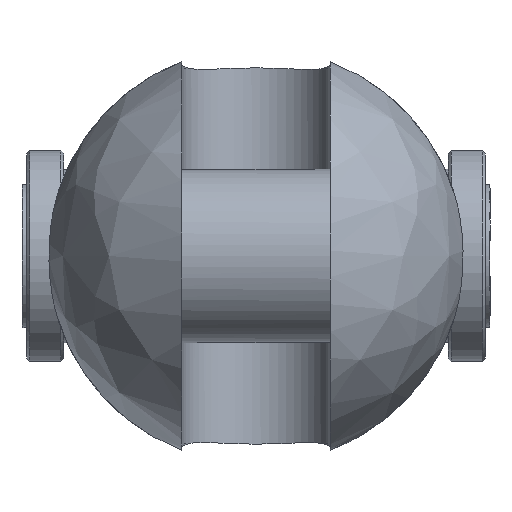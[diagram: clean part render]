
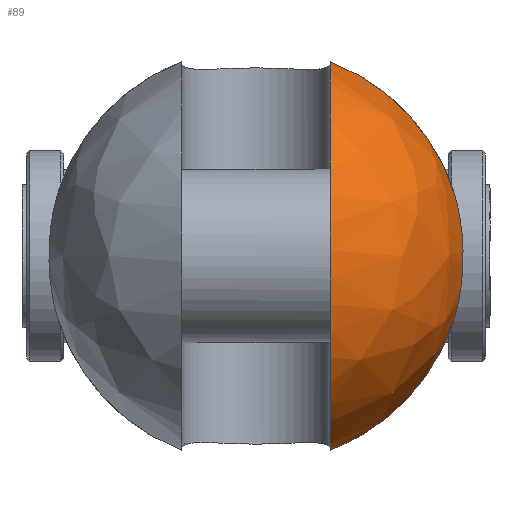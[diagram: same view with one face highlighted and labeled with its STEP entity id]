
A CAD part, left-side view. The second image highlights one B-rep face of the part: STEP entity #89.
In plain terms, the highlighted free-form (B-spline) face has degree [2, 2] with [9, 5] control points.
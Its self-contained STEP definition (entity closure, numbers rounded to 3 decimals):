
#89=ADVANCED_FACE('',(#164),#1306,.T.);
#164=FACE_OUTER_BOUND('',#249,.T.);
#249=EDGE_LOOP('',(#583,#584,#585,#586));
#583=ORIENTED_EDGE('',*,*,#807,.T.);
#584=ORIENTED_EDGE('',*,*,#834,.F.);
#585=ORIENTED_EDGE('',*,*,#851,.T.);
#586=ORIENTED_EDGE('',*,*,#827,.F.);
#807=EDGE_CURVE('',#1192,#1191,#1045,.T.);
#827=EDGE_CURVE('',#1192,#1204,#1055,.T.);
#834=EDGE_CURVE('',#1211,#1191,#1056,.T.);
#851=EDGE_CURVE('',#1211,#1204,#962,.T.);
#962=B_SPLINE_CURVE_WITH_KNOTS('',3,(#3095,#3096,#3097,#3098,#3099,#3100,
#3101,#3102,#3103,#3104,#3105,#3106,#3107,#3108),.UNSPECIFIED.,.F.,.F.,
(4,2,2,2,2,2,4),(-21.373,-19.503,-15.095,
-10.687,-6.278,-1.87,0.),.UNSPECIFIED.);
#1045=(
BOUNDED_CURVE()
B_SPLINE_CURVE(2,(#2896,#2897,#2898,#2899,#2900),.UNSPECIFIED.,.F.,.F.)
B_SPLINE_CURVE_WITH_KNOTS((3,2,3),(-98.26,-49.13,0.),
 .UNSPECIFIED.)
CURVE()
GEOMETRIC_REPRESENTATION_ITEM()
RATIONAL_B_SPLINE_CURVE((1.,0.707,1.,0.707,1.))
REPRESENTATION_ITEM('')
);
#1055=(
BOUNDED_CURVE()
B_SPLINE_CURVE(2,(#2990,#2991,#2992),.UNSPECIFIED.,.F.,.F.)
B_SPLINE_CURVE_WITH_KNOTS((3,3),(0.,30.247),.UNSPECIFIED.)
CURVE()
GEOMETRIC_REPRESENTATION_ITEM()
RATIONAL_B_SPLINE_CURVE((1.,0.9,1.))
REPRESENTATION_ITEM('')
);
#1056=(
BOUNDED_CURVE()
B_SPLINE_CURVE(2,(#3021,#3022,#3023),.UNSPECIFIED.,.F.,.F.)
B_SPLINE_CURVE_WITH_KNOTS((3,3),(0.,30.247),.UNSPECIFIED.)
CURVE()
GEOMETRIC_REPRESENTATION_ITEM()
RATIONAL_B_SPLINE_CURVE((1.,0.9,1.))
REPRESENTATION_ITEM('')
);
#1191=VERTEX_POINT('',#2837);
#1192=VERTEX_POINT('',#2838);
#1204=VERTEX_POINT('',#2850);
#1211=VERTEX_POINT('',#2857);
#1306=(
BOUNDED_SURFACE()
B_SPLINE_SURFACE(2,2,((#2445,#2446,#2447,#2448,#2449),(#2450,#2451,#2452,
#2453,#2454),(#2455,#2456,#2457,#2458,#2459),(#2460,#2461,#2462,#2463,#2464),
(#2465,#2466,#2467,#2468,#2469),(#2470,#2471,#2472,#2473,#2474),(#2475,
#2476,#2477,#2478,#2479),(#2480,#2481,#2482,#2483,#2484),(#2485,#2486,#2487,
#2488,#2489)),.UNSPECIFIED.,.T.,.F.,.F.)
B_SPLINE_SURFACE_WITH_KNOTS((3,2,2,2,3),(3,2,3),(0.,52.622,105.243,
157.865,210.487),(0.,52.622,105.243),
 .UNSPECIFIED.)
GEOMETRIC_REPRESENTATION_ITEM()
RATIONAL_B_SPLINE_SURFACE(((1.,0.707,1.,0.707,1.),
(0.707,0.5,0.707,0.5,0.707),(1.,0.707,
1.,0.707,1.),(0.707,0.5,0.707,0.5,0.707),
(1.,0.707,1.,0.707,1.),(0.707,0.5,0.707,
0.5,0.707),(1.,0.707,1.,0.707,1.),(0.707,
0.5,0.707,0.5,0.707),(1.,0.707,1.,0.707,
1.)))
REPRESENTATION_ITEM('')
SURFACE()
);
#2445=CARTESIAN_POINT('',(-48.5,0.,0.));
#2446=CARTESIAN_POINT('',(-48.5,33.5,0.));
#2447=CARTESIAN_POINT('',(-15.,33.5,0.));
#2448=CARTESIAN_POINT('',(18.5,33.5,0.));
#2449=CARTESIAN_POINT('',(18.5,0.,0.));
#2450=CARTESIAN_POINT('',(-48.5,0.,0.));
#2451=CARTESIAN_POINT('',(-48.5,33.5,33.5));
#2452=CARTESIAN_POINT('',(-15.,33.5,33.5));
#2453=CARTESIAN_POINT('',(18.5,33.5,33.5));
#2454=CARTESIAN_POINT('',(18.5,0.,0.));
#2455=CARTESIAN_POINT('',(-48.5,0.,0.));
#2456=CARTESIAN_POINT('',(-48.5,0.,33.5));
#2457=CARTESIAN_POINT('',(-15.,0.,33.5));
#2458=CARTESIAN_POINT('',(18.5,0.,33.5));
#2459=CARTESIAN_POINT('',(18.5,0.,0.));
#2460=CARTESIAN_POINT('',(-48.5,0.,0.));
#2461=CARTESIAN_POINT('',(-48.5,-33.5,33.5));
#2462=CARTESIAN_POINT('',(-15.,-33.5,33.5));
#2463=CARTESIAN_POINT('',(18.5,-33.5,33.5));
#2464=CARTESIAN_POINT('',(18.5,0.,0.));
#2465=CARTESIAN_POINT('',(-48.5,0.,0.));
#2466=CARTESIAN_POINT('',(-48.5,-33.5,0.));
#2467=CARTESIAN_POINT('',(-15.,-33.5,0.));
#2468=CARTESIAN_POINT('',(18.5,-33.5,0.));
#2469=CARTESIAN_POINT('',(18.5,0.,0.));
#2470=CARTESIAN_POINT('',(-48.5,0.,0.));
#2471=CARTESIAN_POINT('',(-48.5,-33.5,-33.5));
#2472=CARTESIAN_POINT('',(-15.,-33.5,-33.5));
#2473=CARTESIAN_POINT('',(18.5,-33.5,-33.5));
#2474=CARTESIAN_POINT('',(18.5,0.,0.));
#2475=CARTESIAN_POINT('',(-48.5,0.,0.));
#2476=CARTESIAN_POINT('',(-48.5,0.,-33.5));
#2477=CARTESIAN_POINT('',(-15.,0.,-33.5));
#2478=CARTESIAN_POINT('',(18.5,0.,-33.5));
#2479=CARTESIAN_POINT('',(18.5,0.,0.));
#2480=CARTESIAN_POINT('',(-48.5,0.,0.));
#2481=CARTESIAN_POINT('',(-48.5,33.5,-33.5));
#2482=CARTESIAN_POINT('',(-15.,33.5,-33.5));
#2483=CARTESIAN_POINT('',(18.5,33.5,-33.5));
#2484=CARTESIAN_POINT('',(18.5,0.,0.));
#2485=CARTESIAN_POINT('',(-48.5,0.,0.));
#2486=CARTESIAN_POINT('',(-48.5,33.5,0.));
#2487=CARTESIAN_POINT('',(-15.,33.5,0.));
#2488=CARTESIAN_POINT('',(18.5,33.5,0.));
#2489=CARTESIAN_POINT('',(18.5,0.,0.));
#2837=CARTESIAN_POINT('',(-15.,-12.,-31.277));
#2838=CARTESIAN_POINT('',(-15.,-12.,31.277));
#2850=CARTESIAN_POINT('',(-15.,-31.988,9.95));
#2857=CARTESIAN_POINT('',(-15.,-31.988,-9.95));
#2896=CARTESIAN_POINT('',(-15.,-12.,31.277));
#2897=CARTESIAN_POINT('',(-46.277,-12.,31.277));
#2898=CARTESIAN_POINT('',(-46.277,-12.,0.));
#2899=CARTESIAN_POINT('',(-46.277,-12.,-31.277));
#2900=CARTESIAN_POINT('',(-15.,-12.,-31.277));
#2990=CARTESIAN_POINT('',(-15.,-12.,31.277));
#2991=CARTESIAN_POINT('',(-15.,-27.164,25.459));
#2992=CARTESIAN_POINT('',(-15.,-31.988,9.95));
#3021=CARTESIAN_POINT('',(-15.,-31.988,-9.95));
#3022=CARTESIAN_POINT('',(-15.,-27.164,-25.459));
#3023=CARTESIAN_POINT('',(-15.,-12.,-31.277));
#3095=CARTESIAN_POINT('',(-15.,-31.988,-9.95));
#3096=CARTESIAN_POINT('',(-15.337,-32.146,-9.442));
#3097=CARTESIAN_POINT('',(-15.65,-32.292,-8.914));
#3098=CARTESIAN_POINT('',(-16.609,-32.736,-7.088));
#3099=CARTESIAN_POINT('',(-17.132,-32.973,-5.711));
#3100=CARTESIAN_POINT('',(-17.828,-33.288,-2.881));
#3101=CARTESIAN_POINT('',(-18.,-33.365,-1.427));
#3102=CARTESIAN_POINT('',(-18.,-33.365,1.427));
#3103=CARTESIAN_POINT('',(-17.828,-33.288,2.881));
#3104=CARTESIAN_POINT('',(-17.132,-32.973,5.711));
#3105=CARTESIAN_POINT('',(-16.609,-32.736,7.088));
#3106=CARTESIAN_POINT('',(-15.65,-32.292,8.914));
#3107=CARTESIAN_POINT('',(-15.337,-32.146,9.442));
#3108=CARTESIAN_POINT('',(-15.,-31.988,9.95));
